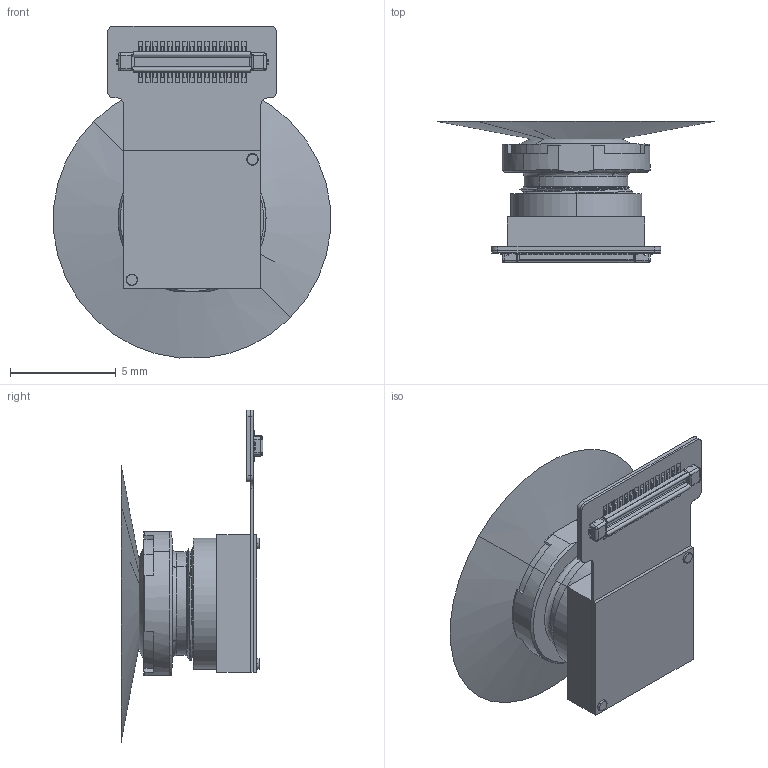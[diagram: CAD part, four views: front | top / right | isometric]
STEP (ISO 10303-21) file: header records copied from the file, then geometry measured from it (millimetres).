
FILE_DESCRIPTION(('CATIA V5 STEP Exchange'),'2;1');
FILE_NAME('D:\Desktop\ZS1560-A(VD65G4CCC0) 3D FOV160.stp','2026-04-07T11:28:24+00:00',('none'),('none'),'CATIA Version 5 Release 20 GA (IN-10)','CATIA V5 STEP AP214','none');
FILE_SCHEMA(('AUTOMOTIVE_DESIGN { 1 0 10303 214 1 1 1 1 }'));
Length unit declared in the file: millimetre
Products named in the file (12): ZS1560-A-160.3°; VD55G1 PLCC28Pin 5_5_0.85 3D 230706; ASM0002_ASM_1_ASM; FPC_ASM_ASM_4_ASM; FPC_2; STEEL-2_1; STEEL-1_1; DIZUO_1_4; BM28B0_6-30DP_1_4; LENS; 8090-90A3-FF9C_20211207_2_1_1; angle
Assembly tree (11 placements, depth 4):
  ZS1560-A-160.3°
    VD55G1 PLCC28Pin 5_5_0.85 3D 230706
    ASM0002_ASM_1_ASM
      FPC_ASM_ASM_4_ASM
        FPC_2
        STEEL-2_1
        STEEL-1_1
      DIZUO_1_4
      BM28B0_6-30DP_1_4
      LENS
        8090-90A3-FF9C_20211207_2_1_1
      angle
Bounding box: 13.08 x 6.71 x 15.69 mm (x, y, z)
Volume: 45.8 mm3; surface area: 978.4 mm2
Topology: 35 solids, 46 shells, 1713 faces, 4431 edges, 2944 vertices
Faces by surface type: plane 1435, cylinder 190, bspline 44, cone 36, torus 8
Entity records: 61818 total; most frequent: CARTESIAN_POINT 19164, ORIENTED_EDGE 8828, DIRECTION 7409, EDGE_CURVE 4417, VECTOR 3688, LINE 3688, VERTEX_POINT 2944, AXIS2_PLACEMENT_3D 2031
